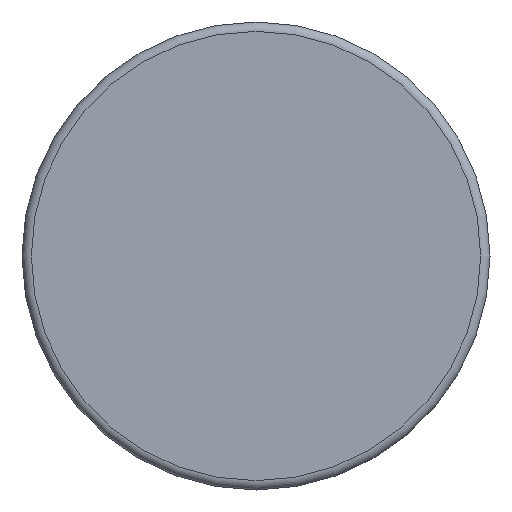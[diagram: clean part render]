
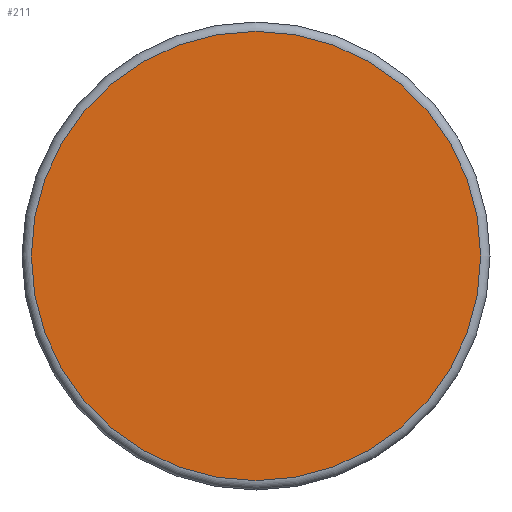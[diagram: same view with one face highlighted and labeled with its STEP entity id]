
A CAD part, front view. The second image highlights one B-rep face of the part: STEP entity #211.
In plain terms, the highlighted planar face has unit normal (0, -1, 0).
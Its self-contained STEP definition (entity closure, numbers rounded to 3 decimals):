
#211 = ADVANCED_FACE( '', ( #409 ), #410, .F. );
#409 = FACE_OUTER_BOUND( '', #609, .T. );
#410 = PLANE( '', #610 );
#609 = EDGE_LOOP( '', ( #949 ) );
#610 = AXIS2_PLACEMENT_3D( '', #950, #951, #952 );
#949 = ORIENTED_EDGE( '', *, *, #1159, .T. );
#950 = CARTESIAN_POINT( '', ( 24., 0., 0. ) );
#951 = DIRECTION( '', ( 0., 1., 0. ) );
#952 = DIRECTION( '', ( 0., 0., 1. ) );
#1159 = EDGE_CURVE( '', #1351, #1351, #1352, .T. );
#1351 = VERTEX_POINT( '', #1694 );
#1352 = CIRCLE( '', #1695, 24. );
#1694 = CARTESIAN_POINT( '', ( 0., 0., -24. ) );
#1695 = AXIS2_PLACEMENT_3D( '', #2035, #2036, #2037 );
#2035 = CARTESIAN_POINT( '', ( 0., 0., 0. ) );
#2036 = DIRECTION( '', ( 0., -1., 0. ) );
#2037 = DIRECTION( '', ( 0., 0., -1. ) );
